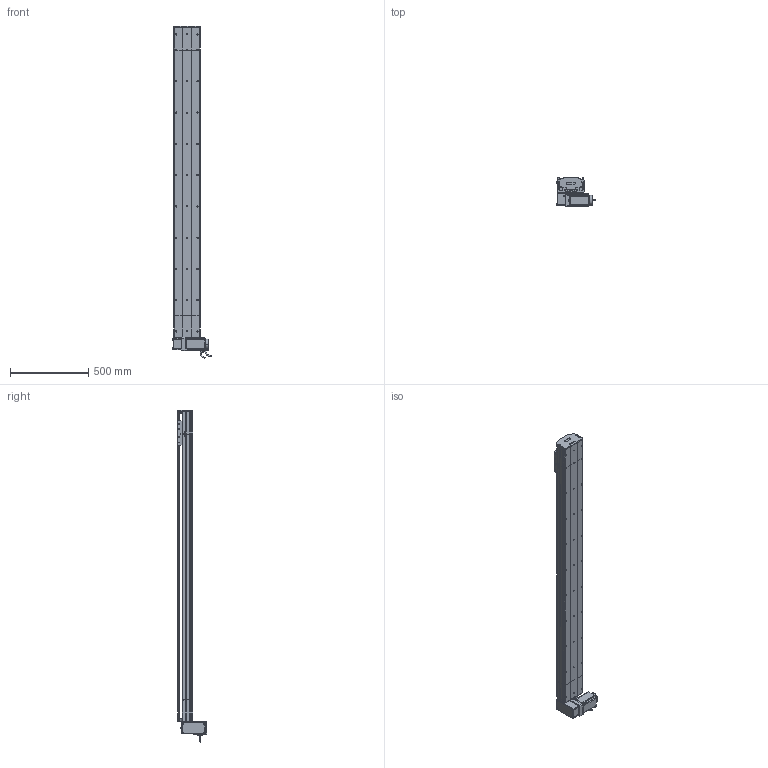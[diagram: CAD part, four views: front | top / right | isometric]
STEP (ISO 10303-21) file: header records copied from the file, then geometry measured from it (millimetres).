
FILE_DESCRIPTION (( 'STEP AP214' ), '1' );
FILE_NAME ('D17 TBH RU S1700.STEP', '2010-06-30T08:16:23', ( 'Christophe Gaillard' ), ( 'SGA' ), 'SwSTEP 2.0', 'SolidWorks 2010', '' );
FILE_SCHEMA (( 'AUTOMOTIVE_DESIGN' ));
Length unit declared in the file: millimetre
Products named in the file (40): Head RU D17B_Default; couvercle D17B course L1700_Default; D17 TBH RU S1700; Couroie+ rail D17 Course 1700 ; corp D17B 1700_Default; course 1700 D17B_Default; vis M5 L12_Default; guide D17; vis M5 L25_Default; vis M5 L8 90°_Default; couvercle D17B_Default; Chariot D17; chariot D17S_Default; tete d''axe poulie D17B; Rail D17B; Couroie tail D17B_Default; poulie tail_Default; plaque de  bout tail D17B_Default; plaque de  bout head D17B RU_Default; couvercle D17B head_Default; corpl head D17 _Default; vis M5 L5_Default; cache D17_Default; Arbre+rail head D17B; avant 90BLDC125A-640; Moteur motionking 90BLDC125A-640; couroie head D17_Default; poulie head_Default; Conecteur2_Default; codeur 90BLDC125-640; corps 90BLDC125A-640; Plaque racord D17_Default; vis M5 L70_Default; Conecteur_Default; cache arbre D17_Default; Vis M5 L16-2_Default; vis M5 L16_Default; corp tail D17B+100_Default; Tail D17B+100_Default; Renvoi RU_Default
Assembly tree (70 placements, depth 4):
  D17 TBH RU S1700
    course 1700 D17B_Default
      Couroie+ rail D17 Course 1700 
      corp D17B 1700_Default
      couvercle D17B course L1700_Default
    chariot D17S_Default
      vis M5 L12_Default  x4
      guide D17  x2
      Chariot D17
    Head RU D17B_Default
      corpl head D17 _Default
      vis M5 L12_Default  x8
      cache D17_Default  x2
      plaque de  bout head D17B RU_Default
      Plaque racord D17_Default
      poulie head_Default
      vis M5 L25_Default  x2
      vis M5 L70_Default  x4
      Vis M5 L16-2_Default  x4
      vis M5 L5_Default  x4
      Renvoi RU_Default
      couvercle D17B head_Default
      vis M5 L16_Default  x2
      cache arbre D17_Default
      couroie head D17_Default
      Moteur motionking 90BLDC125A-640
        avant 90BLDC125A-640
        corps 90BLDC125A-640
        Conecteur_Default
        codeur 90BLDC125-640
        Conecteur2_Default
      Arbre+rail head D17B
    Tail D17B+100_Default
      vis M5 L12_Default  x4
      tete d''axe poulie D17B
      poulie tail_Default
      Couroie tail D17B_Default
      corp tail D17B+100_Default
      plaque de  bout tail D17B_Default
      vis M5 L25_Default  x2
      couvercle D17B_Default
      vis M5 L8 90°_Default  x2
      Rail D17B
Bounding box: 245.2 x 188.65 x 2123.95 mm (x, y, z)
Volume: 12767708.1 mm3; surface area: 3642616.3 mm2
Topology: 94 solids, 94 shells, 2705 faces, 6839 edges, 4402 vertices
Faces by surface type: plane 1611, cylinder 781, bspline 136, cone 88, torus 85, sphere 4
Entity records: 84970 total; most frequent: CARTESIAN_POINT 25067, ORIENTED_EDGE 10450, DIRECTION 9910, EDGE_CURVE 5225, VECTOR 3472, LINE 3472, VERTEX_POINT 3426, AXIS2_PLACEMENT_3D 3219
